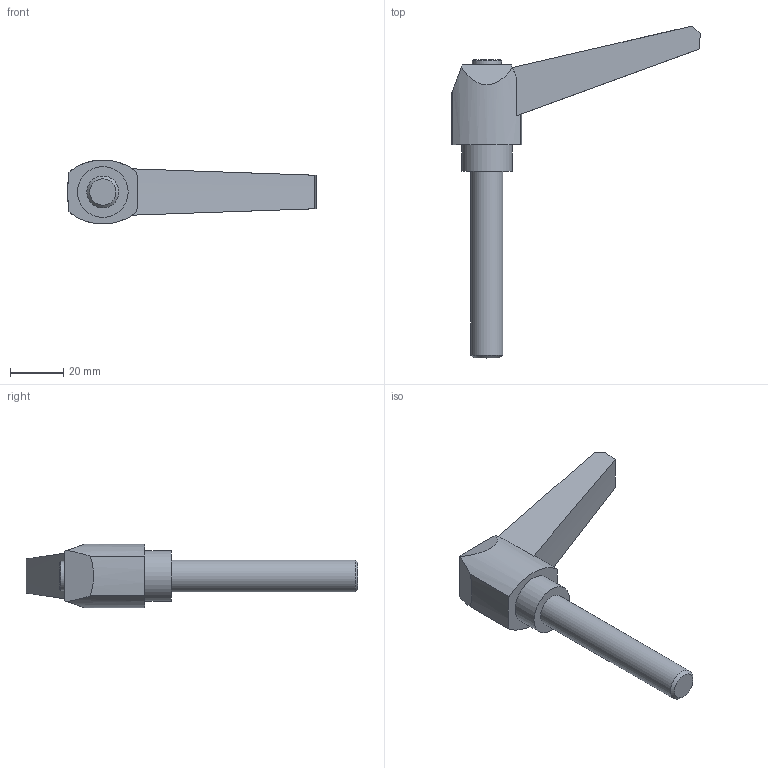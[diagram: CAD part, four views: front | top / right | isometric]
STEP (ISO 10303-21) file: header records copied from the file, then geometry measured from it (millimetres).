
FILE_DESCRIPTION( ( 'STEP AP203' ), '1' );
FILE_NAME( 'C:/Temp/Ganter_Step_05_03_2020/data/2_1/gn_500/gn_500_ms/Adjustable hand lever GN 500-80-M12-70-SW.stp', '2020-03-05T11:26:39', ( 'License CC BY-ND 4.0' ), ( 'CADENAS' ), ' ', 'PARTsolutions', ' ' );
FILE_SCHEMA( ( 'CONFIG_CONTROL_DESIGN' ) );
Length unit declared in the file: millimetre
Products named in the file (1): _Adjustable hand lever GN 500-80-M12-70-SW
Bounding box: 93.3 x 124.58 x 24 mm (x, y, z)
Volume: 40649.6 mm3; surface area: 10513.7 mm2
Topology: 1 solids, 1 shells, 24 faces, 56 edges, 37 vertices
Faces by surface type: plane 11, cylinder 7, cone 6
Full cylindrical faces by diameter (mm): 11 x1, 12 x1, 19 x1
Entity records: 709 total; most frequent: CARTESIAN_POINT 124, DIRECTION 118, ORIENTED_EDGE 100, EDGE_CURVE 50, AXIS2_PLACEMENT_3D 47, VERTEX_POINT 36, EDGE_LOOP 32, FACE_OUTER_BOUND 27
